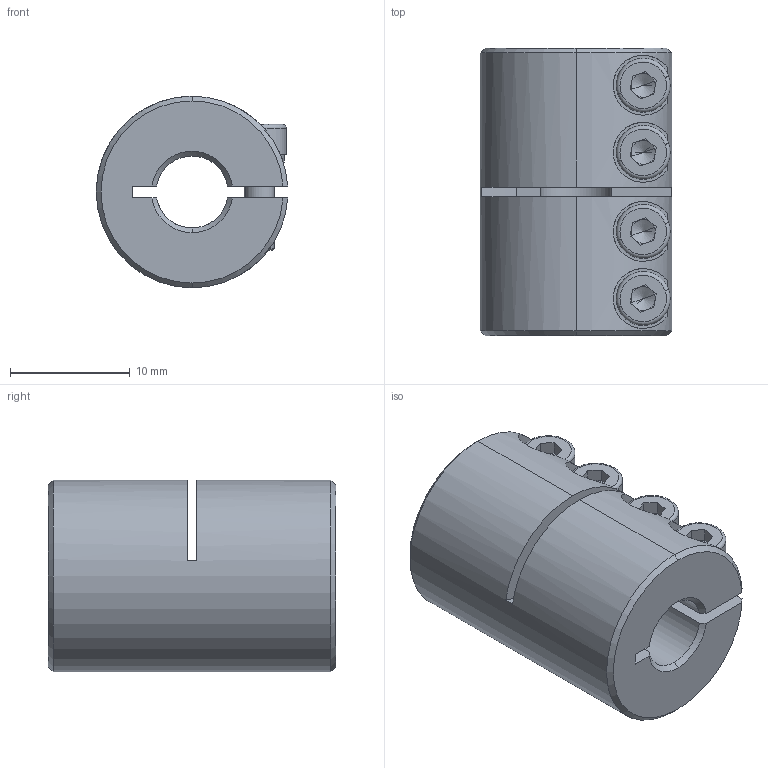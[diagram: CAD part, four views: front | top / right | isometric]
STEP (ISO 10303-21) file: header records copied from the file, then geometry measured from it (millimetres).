
FILE_DESCRIPTION (( 'STEP AP203' ), '1' );
FILE_NAME ('LL-B-D16L24-6-6.STEP', '2021-11-03T04:36:50', ( '' ), ( '' ), 'SwSTEP 2.0', 'SolidWorks 2018', '' );
FILE_SCHEMA (( 'CONFIG_CONTROL_DESIGN' ));
Length unit declared in the file: millimetre
Products named in the file (1): LL-B-D16L24-6-6
Bounding box: 15.98 x 24 x 16 mm (x, y, z)
Volume: 3840.5 mm3; surface area: 2925.4 mm2
Topology: 1 solids, 1 shells, 200 faces, 513 edges, 319 vertices
Faces by surface type: plane 90, cylinder 74, cone 28, torus 8
Entity records: 6481 total; most frequent: CARTESIAN_POINT 1493, DIRECTION 1074, ORIENTED_EDGE 1010, EDGE_CURVE 505, AXIS2_PLACEMENT_3D 420, VERTEX_POINT 319, LINE 234, VECTOR 234
